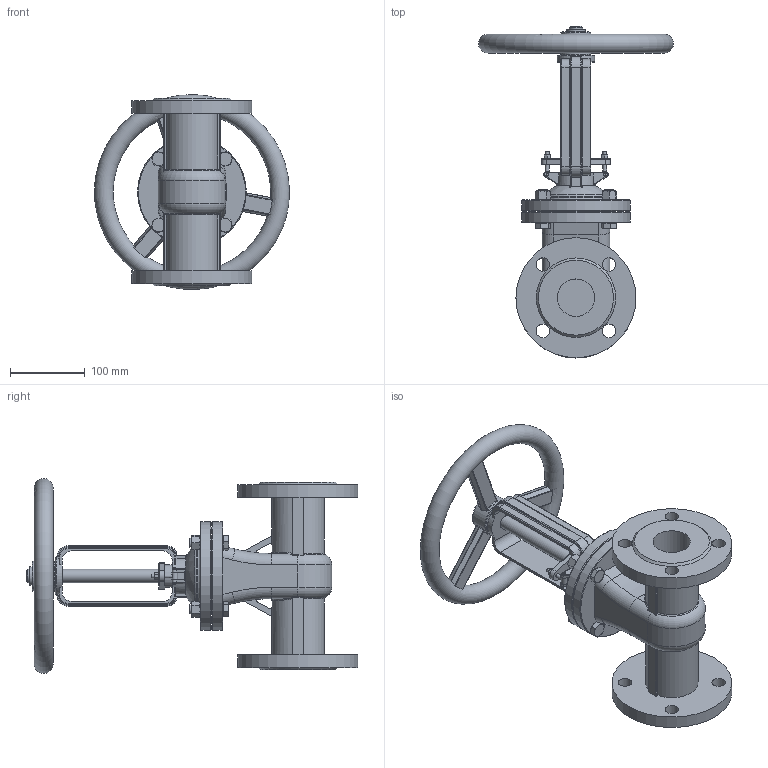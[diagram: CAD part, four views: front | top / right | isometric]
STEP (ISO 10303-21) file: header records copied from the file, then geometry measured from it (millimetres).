
FILE_DESCRIPTION(('STEP AP242'), '1');
FILE_NAME('GVWR3131M-2W-F-S Çàäâèæêà êëèíîâàÿ ñ âûäâèæíûì øòîêîì DN.ru Äó50 Ðó25', '2026-05-31T08:48:05', ('R2D2'), (''), 'C3D Converter', 'C3D Toolkit', '');
FILE_SCHEMA(('AP242_MANAGED_MODEL_BASED_3D_ENGINEERING_MIM_LF { 1 0 10303 442 1 1 4 }'));
Length unit declared in the file: millimetre
Products named in the file (1): GVWR3131M-2W-F-S
Bounding box: 259.83 x 442.5 x 259.73 mm (x, y, z)
Volume: 2968826 mm3; surface area: 394823.4 mm2
Topology: 1 solids, 1 shells, 903 faces, 2302 edges, 1432 vertices
Faces by surface type: plane 347, cylinder 183, cone 109, extrusion 101, bspline 93, torus 69, sphere 1
Full cylindrical faces by diameter (mm): 3 x4, 5 x4, 8 x2, 12 x8, 18 x14, 20 x1, 25 x1, 30 x1, 40 x2, 50 x4, 90 x2, 145 x2, 160 x2
Entity records: 48749 total; most frequent: CARTESIAN_POINT 24427, ORIENTED_EDGE 4450, DIRECTION 3565, EDGE_CURVE 2225, VERTEX_POINT 1427, AXIS2_PLACEMENT_3D 1306, EDGE_LOOP 1058, FACE_BOUND 973
